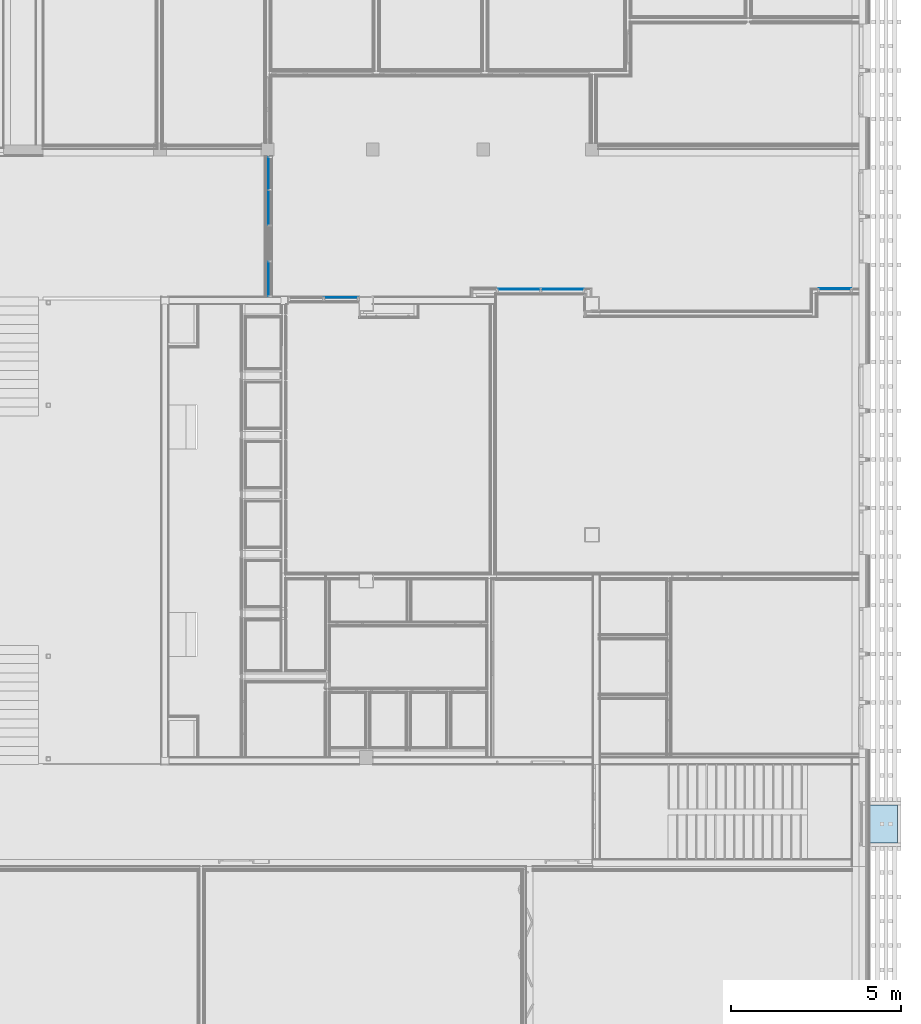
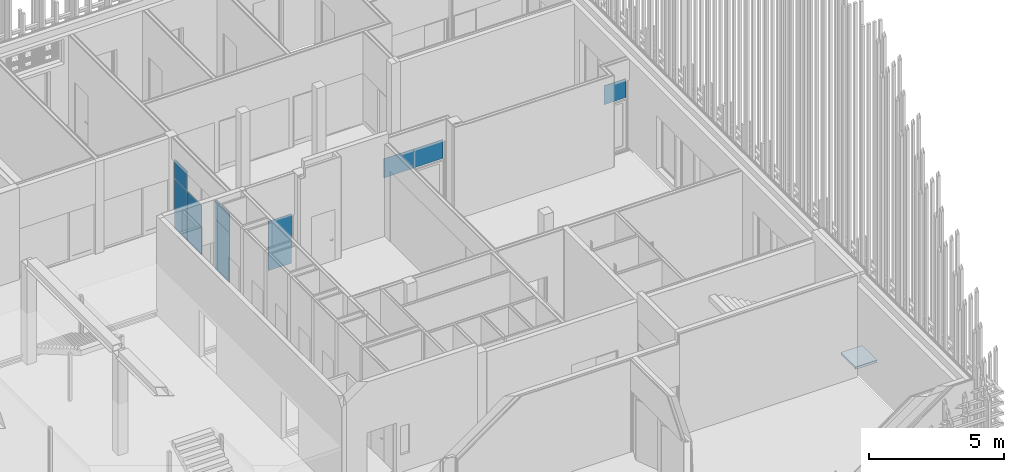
# One storey, part 107 of 260: 9 plates, 1 slab, 4 elements without a shape of their own.
"""IFC2X3 building model written with IfcOpenShell, lengths in millimetres."""

from ifc_helpers import new_model, entity, si_unit, converted_unit, derived_unit, money_unit, direction, frame, origin_with_axes, place, context, subcontext, project, spatial, faceted_brep, material, type_object, element, aggregate, save


model = new_model("IFC2X3")

# Units and contexts
model_context = context("Model", 3, precision=0.01, world=origin_with_axes(), true_north=direction((0.0, 1.0)))
body_context = subcontext(model_context, "Body", "Model", "MODEL_VIEW")
ifc_project = project(units=[si_unit("LENGTHUNIT", "METRE", prefix="MILLI"), si_unit("AREAUNIT", "SQUARE_METRE"), si_unit("VOLUMEUNIT", "CUBIC_METRE"), converted_unit("PLANEANGLEUNIT", "DEGREE", entity("IfcPlaneAngleMeasure", 0.0174532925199), si_unit("PLANEANGLEUNIT", "RADIAN"), dimensions=[0, 0, 0, 0, 0, 0, 0]), money_unit("EUR"), converted_unit("TIMEUNIT", "Year", entity("IfcTimeMeasure", 31556926.0), si_unit("TIMEUNIT", "SECOND"), dimensions=[0, 0, 1, 0, 0, 0, 0]), si_unit("MASSUNIT", "GRAM", prefix="KILO"), si_unit("THERMODYNAMICTEMPERATUREUNIT", "DEGREE_CELSIUS"), si_unit("LUMINOUSINTENSITYUNIT", "LUMEN"), si_unit("ENERGYUNIT", "JOULE", prefix="MEGA"), derived_unit("THERMALCONDUCTANCEUNIT", [(si_unit("POWERUNIT", "WATT"), 1), (si_unit("LENGTHUNIT", "METRE"), -1), (si_unit("THERMODYNAMICTEMPERATUREUNIT", "KELVIN"), -1)]), derived_unit("SPECIFICHEATCAPACITYUNIT", [(si_unit("ENERGYUNIT", "JOULE"), 1), (si_unit("MASSUNIT", "GRAM", prefix="KILO"), -1), (si_unit("THERMODYNAMICTEMPERATUREUNIT", "KELVIN"), -1)]), derived_unit("MASSDENSITYUNIT", [(si_unit("MASSUNIT", "GRAM", prefix="KILO"), 1), (si_unit("VOLUMEUNIT", "CUBIC_METRE"), -1)])], contexts=[model_context])

# Site, building, storey
site_placement = place(None, origin_with_axes())
site = spatial("IfcSite", under=ifc_project, at=site_placement, Name="Kolde pst 67a", CompositionType="ELEMENT")
building_placement = place(site_placement, origin_with_axes())
building = spatial("IfcBuilding", under=site, at=building_placement, Name="Riigigümnaasium", CompositionType="ELEMENT")
storey_placement = place(building_placement, origin_with_axes())
storey = spatial("IfcBuildingStorey", under=building, at=storey_placement, Name="1. korrus", CompositionType="ELEMENT", Elevation=0.0)

# Curtain wall, plates
curtain_wall_type = type_object("IfcCurtainWallType", Name="Curtain Wall Type", PredefinedType="NOTDEFINED")
curtain_wall_1_placement = place(storey_placement, frame((67073.6436674, 24969.9980242, -4.39663916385e-06), z_axis=(0.0, 0.0, 1.0), x_axis=(1.0, 0.0, 0.0)))
curtain_wall_1 = element("IfcCurtainWall", 1, at=curtain_wall_1_placement, inside=storey, type_object=curtain_wall_type, Name="KLAASSEIN")
ifc_material_1 = material(Name="_GENEERILINE MATERJAL KLAAS")
plate_type_1 = type_object("IfcPlateType", Name="Distinct Panel 1015 x 2265 x 20", PredefinedType="NOTDEFINED")
plate_1_placement = place(curtain_wall_1_placement, frame((0.0, 0.0, 1149.99999438), z_axis=(0.0, 0.0, 1.0), x_axis=(0.0, -1.0, 0.0)))
plate_1 = element("IfcPlate", 2, at=plate_1_placement, type_object=plate_type_1, material=ifc_material_1, Name="RF PANEEL ERI-022", context=body_context, shape_type="Brep", body=[
    faceted_brep([(-519.999986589, 10.0, 1144.99998957), (-519.999986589, -10.0, 1144.99998957), (495.00000596, -10.0, 1144.99998957), (495.00000596, 10.0, 1144.99998957), (-519.999986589, 10.0, -1120.00000596), (-519.999986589, -10.0, -1120.00000596), (495.00000596, -10.0, -1120.00000596), (495.00000596, 10.0, -1120.00000596)], [[[0, 1, 2, 3]], [[4, 5, 1, 0]], [[1, 5, 6, 2]], [[3, 2, 6, 7]], [[0, 3, 7, 4]], [[7, 6, 5, 4]]]),
])
plate_type_2 = type_object("IfcPlateType", Name="Distinct Panel 1040 x 2265 x 20", PredefinedType="NOTDEFINED")
plate_2_placement = place(curtain_wall_1_placement, frame((0.0, 2100.0, 1149.99999438), z_axis=(0.0, 0.0, 1.0), x_axis=(0.0, -1.0, 0.0)))
plate_2 = element("IfcPlate", 3, at=plate_2_placement, type_object=plate_type_2, material=ifc_material_1, Name="RF PANEEL ERI-024", context=body_context, shape_type="Brep", body=[
    faceted_brep([(-519.999986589, 10.0, 1144.99998957), (-519.999986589, -10.0, 1144.99998957), (519.999989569, -10.0, 1144.99998957), (519.999989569, 10.0, 1144.99998957), (-519.999986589, 10.0, -1120.00000596), (-519.999986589, -10.0, -1120.00000596), (519.999989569, -10.0, -1120.00000596), (519.999989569, 10.0, -1120.00000596)], [[[0, 1, 2, 3]], [[4, 5, 1, 0]], [[1, 5, 6, 2]], [[3, 2, 6, 7]], [[0, 3, 7, 4]], [[7, 6, 5, 4]]]),
])
plate_type_3 = type_object("IfcPlateType", Name="Main Panel 1015 x 865 x 20", PredefinedType="NOTDEFINED")
plate_3_placement = place(curtain_wall_1_placement, frame((0.0, 0.0, 2749.99999258), z_axis=(0.0, 0.0, 1.0), x_axis=(0.0, -1.0, 0.0)))
plate_3 = element("IfcPlate", 4, at=plate_3_placement, type_object=plate_type_3, material=ifc_material_1, Name="RF PANEEL PEAMINE-053", context=body_context, shape_type="Brep", body=[
    faceted_brep([(-519.99999553, 10.0, 419.999997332), (-519.99999553, -10.0, 419.999997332), (495.00000447, -10.0, 419.999997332), (495.00000447, 10.0, 419.999997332), (-519.99999553, 10.0, -444.999993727), (-519.99999553, -10.0, -444.999993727), (495.00000447, -10.0, -444.999993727), (495.00000447, 10.0, -444.999993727)], [[[0, 1, 2, 3]], [[4, 5, 1, 0]], [[1, 5, 6, 2]], [[3, 2, 6, 7]], [[0, 3, 7, 4]], [[7, 6, 5, 4]]]),
])
plate_type_4 = type_object("IfcPlateType", Name="Main Panel 960 x 2265 x 20", PredefinedType="NOTDEFINED")
plate_4_placement = place(curtain_wall_1_placement, frame((0.0, 3122.50081985, 1149.99999438), z_axis=(0.0, 0.0, 1.0), x_axis=(0.0, -1.0, 0.0)))
plate_4 = element("IfcPlate", 5, at=plate_4_placement, type_object=plate_type_4, material=ifc_material_1, Name="RF PANEEL PEAMINE-056", context=body_context, shape_type="Brep", body=[
    faceted_brep([(-467.500816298, 10.0, 1144.99998957), (-467.500816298, -10.0, 1144.99998957), (492.500809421, -10.0, 1144.99998957), (492.500809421, 10.0, 1144.99998957), (-467.500816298, 10.0, -1120.00000596), (-467.500816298, -10.0, -1120.00000596), (492.500809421, -10.0, -1120.00000596), (492.500809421, 10.0, -1120.00000596)], [[[0, 1, 2, 3]], [[4, 5, 1, 0]], [[1, 5, 6, 2]], [[3, 2, 6, 7]], [[0, 3, 7, 4]], [[7, 6, 5, 4]]]),
])
plate_type_5 = type_object("IfcPlateType", Name="Main Panel 960 x 865 x 20", PredefinedType="NOTDEFINED")
plate_5_placement = place(curtain_wall_1_placement, frame((0.0, 3122.50081985, 2749.99999258), z_axis=(0.0, 0.0, 1.0), x_axis=(0.0, -1.0, 0.0)))
plate_5 = element("IfcPlate", 6, at=plate_5_placement, type_object=plate_type_5, material=ifc_material_1, Name="RF PANEEL PEAMINE-057", context=body_context, shape_type="Brep", body=[
    faceted_brep([(-467.500813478, 10.0, 419.999993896), (-467.500813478, -10.0, 419.999993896), (492.500813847, -10.0, 419.999993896), (492.500813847, 10.0, 419.999993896), (-467.500813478, 10.0, -444.999992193), (-467.500813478, -10.0, -444.999992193), (492.500813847, -10.0, -444.999992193), (492.500813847, 10.0, -444.999992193)], [[[0, 1, 2, 3]], [[4, 5, 1, 0]], [[1, 5, 6, 2]], [[3, 2, 6, 7]], [[0, 3, 7, 4]], [[7, 6, 5, 4]]]),
])
aggregate(curtain_wall_1, [plate_1, plate_2, plate_3, plate_4, plate_5])

# Curtain wall, plate
curtain_wall_2_placement = place(storey_placement, frame((68175.8878955, 24430.0011103, -4.39663905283e-06), z_axis=(0.0, 0.0, 1.0), x_axis=(1.0, 0.0, 0.0)))
curtain_wall_2 = element("IfcCurtainWall", 7, at=curtain_wall_2_placement, inside=storey, type_object=curtain_wall_type, Name="KLAASSEIN")
plate_type_6 = type_object("IfcPlateType", Name="Main Panel 1004 x 2240 x 20", PredefinedType="NOTDEFINED")
plate_6_placement = place(curtain_wall_2_placement, frame((1044.55557638, -0.000759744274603, 1150.0), z_axis=(0.0, 0.0, 1.0), x_axis=(-1.0, 7.2733734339e-07, 0.0)))
plate_6 = element("IfcPlate", 8, at=plate_6_placement, type_object=plate_type_6, material=ifc_material_1, Name="RF PANEEL PEAMINE-067", context=body_context, shape_type="Brep", body=[
    faceted_brep([(-489.555584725, 9.99926603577, 1120.00000596), (-489.555570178, -10.0007339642, 1120.00000596), (514.555573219, -10.0000036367, 1120.00000596), (514.555558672, 9.99999636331, 1120.00000596), (-489.555584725, 9.99926603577, -1120.00000596), (-489.555570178, -10.0007339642, -1120.00000596), (514.555573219, -10.0000036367, -1120.00000596), (514.555558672, 9.99999636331, -1120.00000596)], [[[0, 1, 2, 3]], [[4, 5, 1, 0]], [[1, 5, 6, 2]], [[3, 2, 6, 7]], [[0, 3, 7, 4]], [[7, 6, 5, 4]]]),
])
aggregate(curtain_wall_2, [plate_6])

# Curtain wall, plates
curtain_wall_3_placement = place(storey_placement, frame((75080.0012187, 24675.0981117, -4.39663905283e-06), z_axis=(0.0, 0.0, 1.0), x_axis=(1.0, 0.0, 0.0)))
curtain_wall_3 = element("IfcCurtainWall", 9, at=curtain_wall_3_placement, inside=storey, type_object=curtain_wall_type, Name="KLAASSEIN")
plate_type_7 = type_object("IfcPlateType", Name="Main Panel 1265 x 865 x 20", PredefinedType="NOTDEFINED")
plate_7_placement = place(curtain_wall_3_placement, frame((-650.000422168, 0.0, 2749.99999539), z_axis=(0.0, 0.0, 1.0), x_axis=(1.0, 0.0, 0.0)))
plate_7 = element("IfcPlate", 10, at=plate_7_placement, type_object=plate_type_7, material=ifc_material_1, Name="RF PANEEL PEAMINE-080", context=body_context, shape_type="Brep", body=[
    faceted_brep([(-620.001258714, -10.0, 419.99999806), (645.001271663, -10.0, 419.99999806), (645.001271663, 10.0, 419.99999806), (-620.001258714, 10.0, 419.99999806), (-620.001258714, -10.0, -445.000000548), (645.001271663, -10.0, -445.000000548), (645.001271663, 10.0, -445.000000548), (-620.001258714, 10.0, -445.000000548)], [[[0, 1, 2, 3]], [[0, 4, 5, 1]], [[1, 5, 6, 2]], [[3, 2, 6, 7]], [[4, 0, 3, 7]], [[5, 4, 7, 6]]]),
])
plate_8_placement = place(curtain_wall_3_placement, frame((650.000844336, 0.0, 2749.99999539), z_axis=(0.0, 0.0, 1.0), x_axis=(1.0, 0.0, 0.0)))
plate_8 = element("IfcPlate", 11, at=plate_8_placement, type_object=plate_type_7, material=ifc_material_1, Name="RF PANEEL PEAMINE-079", context=body_context, shape_type="Brep", body=[
    faceted_brep([(-644.99999553, -10.0, 419.99998822), (619.999992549, -10.0, 419.99998822), (619.999992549, 10.0, 419.99998822), (-644.99999553, 10.0, 419.99998822), (-644.99999553, -10.0, -444.999990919), (619.999992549, -10.0, -444.999990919), (619.999992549, 10.0, -444.999990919), (-644.99999553, 10.0, -444.999990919)], [[[0, 1, 2, 3]], [[0, 4, 5, 1]], [[1, 5, 6, 2]], [[3, 2, 6, 7]], [[4, 0, 3, 7]], [[5, 4, 7, 6]]]),
])
aggregate(curtain_wall_3, [plate_7, plate_8])

# Curtain wall, plate
curtain_wall_4_placement = place(storey_placement, frame((83735.0006955, 24688.0768619, -4.19329628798e-05), z_axis=(0.0, 0.0, 1.0), x_axis=(1.0, 0.0, 0.0)))
curtain_wall_4 = element("IfcCurtainWall", 12, at=curtain_wall_4_placement, inside=storey, type_object=curtain_wall_type, Name="KLAASSEIN")
plate_type_8 = type_object("IfcPlateType", Name="Main Panel 950 x 865 x 20", PredefinedType="NOTDEFINED")
plate_9_placement = place(curtain_wall_4_placement, frame((0.0, 0.0, 2750.00003293), z_axis=(0.0, 0.0, 1.0), x_axis=(1.0, 0.0, 0.0)))
plate_9 = element("IfcPlate", 13, at=plate_9_placement, type_object=plate_type_8, material=ifc_material_1, Name="RF PANEEL PEAMINE-081", context=body_context, shape_type="Brep", body=[
    faceted_brep([(-474.998633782, -10.0, 419.999994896), (474.998633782, -10.0, 419.999994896), (474.998633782, 10.0, 419.999994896), (-474.998633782, 10.0, 419.999994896), (-474.998633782, -10.0, -444.999990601), (474.998633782, -10.0, -444.999990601), (474.998633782, 10.0, -444.999990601), (-474.998633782, 10.0, -444.999990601)], [[[0, 1, 2, 3]], [[0, 4, 5, 1]], [[1, 5, 6, 2]], [[3, 2, 6, 7]], [[4, 0, 3, 7]], [[5, 4, 7, 6]]]),
])
aggregate(curtain_wall_4, [plate_9])

# Slab
ifc_material_2 = material(Name="_KANDETARIND - monoliitne raudbetoon vastavalt EK osale")
slab_type = type_object("IfcSlabType", Name="_KANDETARIND - monoliitne raudbetoon vastavalt EK osale 100", PredefinedType="NOTDEFINED")
slab_placement = place(storey_placement, frame((84651.3668273, 9500.01826081, -202.0), z_axis=(0.0, 0.0, 1.0), x_axis=(1.0, 0.0, 0.0)))
element("IfcSlab", 14, at=slab_placement, inside=storey, type_object=slab_type, material=ifc_material_2, Name="Porivann, monoliitne raudbetoon vastavalt EK osale", PredefinedType="NOTDEFINED", context=body_context, shape_type="Brep", body=[
    faceted_brep([(0.0, 0.0, 0.0), (0.0, 0.0, -100.0), (0.00596714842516, -1110.00000019, -100.0), (0.00596714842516, -1110.00000019, 0.0), (919.967224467, 0.00494556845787, 0.0), (919.967224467, 0.00494556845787, -100.0), (919.973191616, -1109.99505462, -100.0), (919.973191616, -1109.99505462, 0.0)], [[[0, 1, 2, 3]], [[4, 5, 1, 0]], [[2, 1, 5, 6]], [[3, 2, 6, 7]], [[4, 0, 3, 7]], [[7, 6, 5, 4]]]),
])

save(model, "model.ifc")
